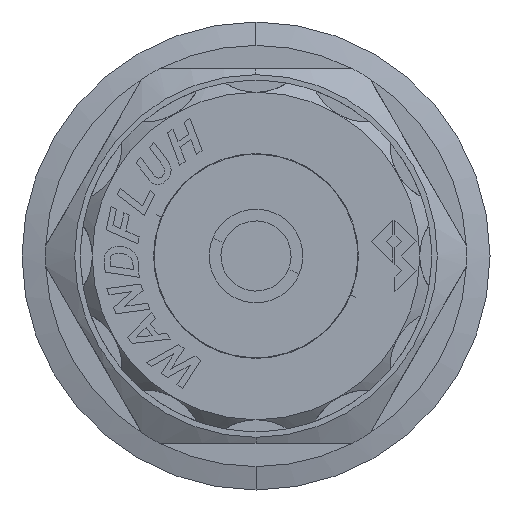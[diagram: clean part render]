
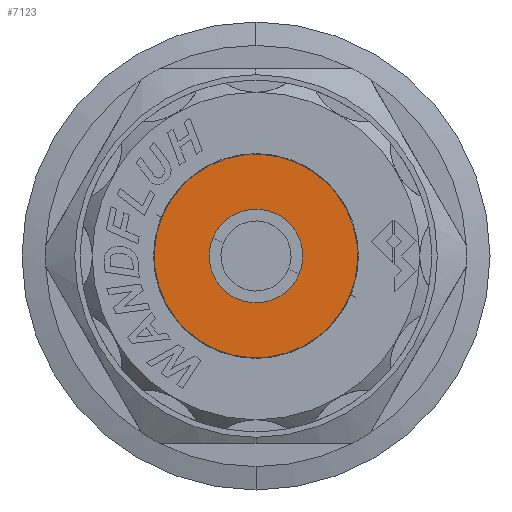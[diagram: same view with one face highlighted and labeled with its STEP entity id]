
A CAD part, left-side view. The second image highlights one B-rep face of the part: STEP entity #7123.
In plain terms, the highlighted planar face has unit normal (-1, 0, 0).
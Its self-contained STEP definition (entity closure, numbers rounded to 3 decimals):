
#1618 = VERTEX_POINT ( 'NONE', #10314 ) ;
#1619 = VERTEX_POINT ( 'NONE', #10315 ) ;
#1630 = VERTEX_POINT ( 'NONE', #10326 ) ;
#1631 = VERTEX_POINT ( 'NONE', #10327 ) ;
#3164 = EDGE_LOOP ( 'NONE', ( #4632, #4634 ) ) ;
#3165 = EDGE_LOOP ( 'NONE', ( #4631, #4636 ) ) ;
#3723 = EDGE_CURVE ( 'NONE', #1619, #1618, #14502, .T. ) ;
#3735 = EDGE_CURVE ( 'NONE', #1630, #1631, #14508, .T. ) ;
#4056 = EDGE_CURVE ( 'NONE', #1618, #1619, #14657, .T. ) ;
#4057 = EDGE_CURVE ( 'NONE', #1631, #1630, #14658, .T. ) ;
#4631 = ORIENTED_EDGE ( 'NONE', *, *, #4057, .T. ) ;
#4632 = ORIENTED_EDGE ( 'NONE', *, *, #4056, .T. ) ;
#4634 = ORIENTED_EDGE ( 'NONE', *, *, #3723, .T. ) ;
#4636 = ORIENTED_EDGE ( 'NONE', *, *, #3735, .T. ) ;
#7123 = ADVANCED_FACE ( 'NONE', ( #18701, #18706 ), #18207, .F. ) ;
#10314 = CARTESIAN_POINT ( 'NONE',  ( -67.7, -3.697, -1.527 ) ) ;
#10315 = CARTESIAN_POINT ( 'NONE',  ( -67.7, 3.697, 1.527 ) ) ;
#10326 = CARTESIAN_POINT ( 'NONE',  ( -67.7, -8.041, -3.322 ) ) ;
#10327 = CARTESIAN_POINT ( 'NONE',  ( -67.7, 8.041, 3.322 ) ) ;
#11261 = AXIS2_PLACEMENT_3D ( 'NONE', #14971, #14975, #14976 ) ;
#11273 = AXIS2_PLACEMENT_3D ( 'NONE', #15004, #15011, #15012 ) ;
#12759 = AXIS2_PLACEMENT_3D ( 'NONE', #15973, #15974, #15975 ) ;
#12760 = AXIS2_PLACEMENT_3D ( 'NONE', #15976, #15977, #15978 ) ;
#14502 = CIRCLE ( 'NONE', #11261, 4. ) ;
#14508 = CIRCLE ( 'NONE', #11273, 8.7 ) ;
#14657 = CIRCLE ( 'NONE', #12759, 4. ) ;
#14658 = CIRCLE ( 'NONE', #12760, 8.7 ) ;
#14971 = CARTESIAN_POINT ( 'NONE',  ( -67.7, 0., 0. ) ) ;
#14975 = DIRECTION ( 'NONE',  ( 1., 0., 0. ) ) ;
#14976 = DIRECTION ( 'NONE',  ( 0., -0.924, -0.382 ) ) ;
#15004 = CARTESIAN_POINT ( 'NONE',  ( -67.7, 0., 0. ) ) ;
#15011 = DIRECTION ( 'NONE',  ( -1., 0., 0. ) ) ;
#15012 = DIRECTION ( 'NONE',  ( 0., 0.924, 0.382 ) ) ;
#15973 = CARTESIAN_POINT ( 'NONE',  ( -67.7, 0., 0. ) ) ;
#15974 = DIRECTION ( 'NONE',  ( 1., 0., 0. ) ) ;
#15975 = DIRECTION ( 'NONE',  ( 0., -0.924, -0.382 ) ) ;
#15976 = CARTESIAN_POINT ( 'NONE',  ( -67.7, 0., 0. ) ) ;
#15977 = DIRECTION ( 'NONE',  ( -1., 0., 0. ) ) ;
#15978 = DIRECTION ( 'NONE',  ( 0., 0.924, 0.382 ) ) ;
#18207 = PLANE ( 'NONE',  #18708 ) ;
#18208 = CARTESIAN_POINT ( 'NONE',  ( -67.7, 0., 0. ) ) ;
#18209 = DIRECTION ( 'NONE',  ( 1., 0., 0. ) ) ;
#18210 = DIRECTION ( 'NONE',  ( 0., 0.924, 0.382 ) ) ;
#18701 = FACE_BOUND ( 'NONE', #3164, .T. ) ;
#18706 = FACE_OUTER_BOUND ( 'NONE', #3165, .T. ) ;
#18708 = AXIS2_PLACEMENT_3D ( 'NONE', #18208, #18209, #18210 ) ;
